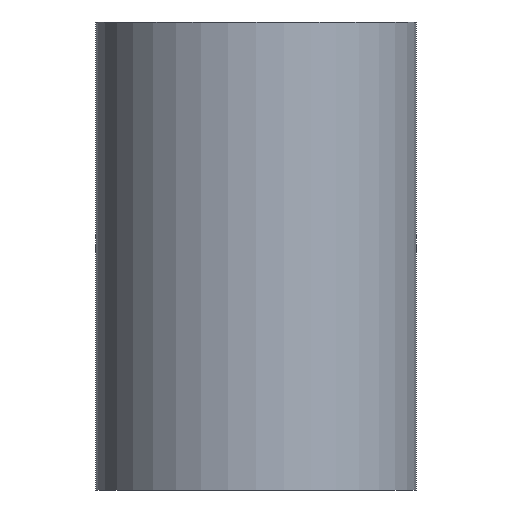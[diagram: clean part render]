
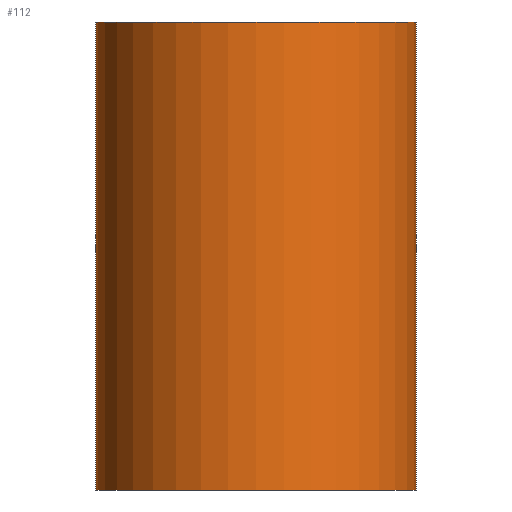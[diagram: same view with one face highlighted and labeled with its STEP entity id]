
A CAD part, front view. The second image highlights one B-rep face of the part: STEP entity #112.
In plain terms, the highlighted cylindrical face has radius 12 mm (diameter 24 mm), a partial arc.
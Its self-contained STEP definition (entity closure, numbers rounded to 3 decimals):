
#112=ADVANCED_FACE('',(#125),#119,.T.);
#119=CYLINDRICAL_SURFACE('',#254,12.);
#125=FACE_OUTER_BOUND('',#135,.T.);
#135=EDGE_LOOP('',(#177,#178,#179,#180));
#149=CIRCLE('',#250,12.);
#151=CIRCLE('',#253,12.);
#177=ORIENTED_EDGE('',*,*,#221,.T.);
#178=ORIENTED_EDGE('',*,*,#222,.F.);
#179=ORIENTED_EDGE('',*,*,#223,.F.);
#180=ORIENTED_EDGE('',*,*,#219,.T.);
#203=VERTEX_POINT('',#344);
#204=VERTEX_POINT('',#345);
#205=VERTEX_POINT('',#349);
#206=VERTEX_POINT('',#351);
#219=EDGE_CURVE('',#203,#204,#149,.T.);
#221=EDGE_CURVE('',#204,#205,#231,.T.);
#222=EDGE_CURVE('',#206,#205,#151,.T.);
#223=EDGE_CURVE('',#203,#206,#232,.T.);
#231=LINE('',#348,#235);
#232=LINE('',#352,#236);
#235=VECTOR('',#298,1.);
#236=VECTOR('',#301,1.);
#250=AXIS2_PLACEMENT_3D('',#343,#292,#293);
#253=AXIS2_PLACEMENT_3D('',#350,#299,#300);
#254=AXIS2_PLACEMENT_3D('',#353,#302,#303);
#292=DIRECTION('',(0.,0.,1.));
#293=DIRECTION('',(0.,1.,0.));
#298=DIRECTION('',(0.,0.,1.));
#299=DIRECTION('',(0.,0.,1.));
#300=DIRECTION('',(0.,1.,0.));
#301=DIRECTION('',(0.,0.,1.));
#302=DIRECTION('',(0.,0.,1.));
#303=DIRECTION('',(0.,-1.,0.));
#343=CARTESIAN_POINT('',(0.,0.,-35.));
#344=CARTESIAN_POINT('',(-12.,0.,-35.));
#345=CARTESIAN_POINT('',(12.,0.,-35.));
#348=CARTESIAN_POINT('',(12.,0.,0.));
#349=CARTESIAN_POINT('',(12.,0.,0.));
#350=CARTESIAN_POINT('',(0.,0.,0.));
#351=CARTESIAN_POINT('',(-12.,0.,0.));
#352=CARTESIAN_POINT('',(-12.,0.,0.));
#353=CARTESIAN_POINT('',(0.,0.,-35.));
